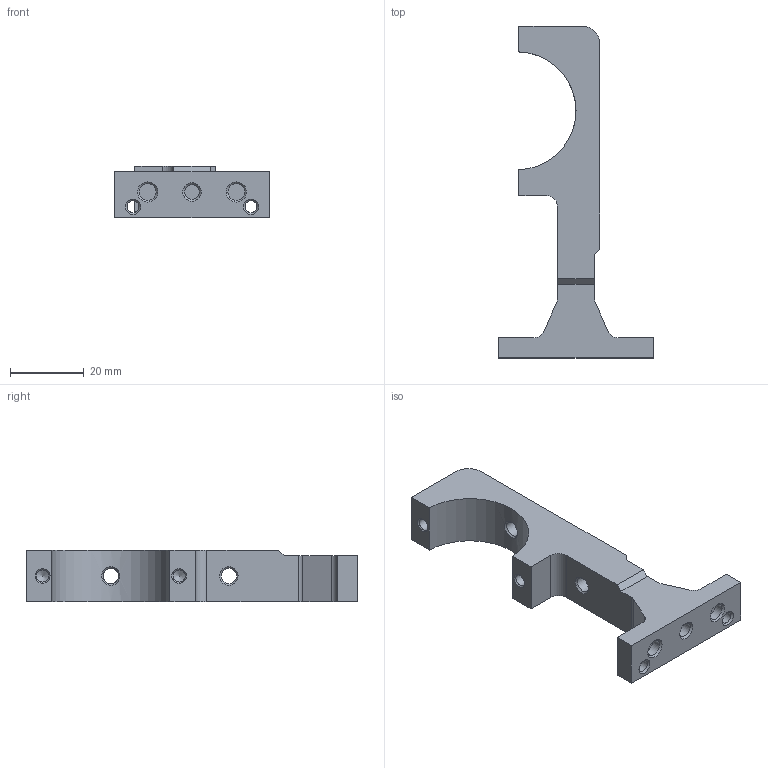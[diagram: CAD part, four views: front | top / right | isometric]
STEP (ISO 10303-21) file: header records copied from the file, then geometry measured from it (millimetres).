
FILE_DESCRIPTION(/* description */ (''),/* implementation_level */ '2;1');
FILE_NAME(/* name */ 'ASSY_STAVE_ONWHEELS_01.stp',/* time_stamp */ '2017-12-06T13:52:43+01:00',/* author */ (''),/* organization */ (''),/* preprocessor_version */ 'ST-DEVELOPER v16',/* originating_system */ 'SIEMENS PLM Software NX 10.0',/* authorisation */ '');
FILE_SCHEMA (('AP203_CONFIGURATION_CONTROLLED_3D_DESIGN_OF_MECHANICAL_PARTS_AND_ASSEMBLIES_MIM_LF { 1 0 10303 403 2 1 2}'));
Length unit declared in the file: millimetre
Products named in the file (1): turc1DB80072j4i3
Bounding box: 42 x 90 x 14 mm (x, y, z)
Volume: 16840.4 mm3; surface area: 7302.2 mm2
Topology: 1 solids, 1 shells, 53 faces, 145 edges, 97 vertices
Faces by surface type: plane 22, cylinder 16, cone 14, bspline 1
Full cylindrical faces by diameter (mm): 3.2 x2, 3.3 x2, 4 x1, 4.2 x2, 4.5 x2
Entity records: 1643 total; most frequent: CARTESIAN_POINT 329, DIRECTION 266, ORIENTED_EDGE 206, AXIS2_PLACEMENT_3D 104, EDGE_CURVE 103, EDGE_LOOP 88, VERTEX_POINT 81, FACE_BOUND 69
